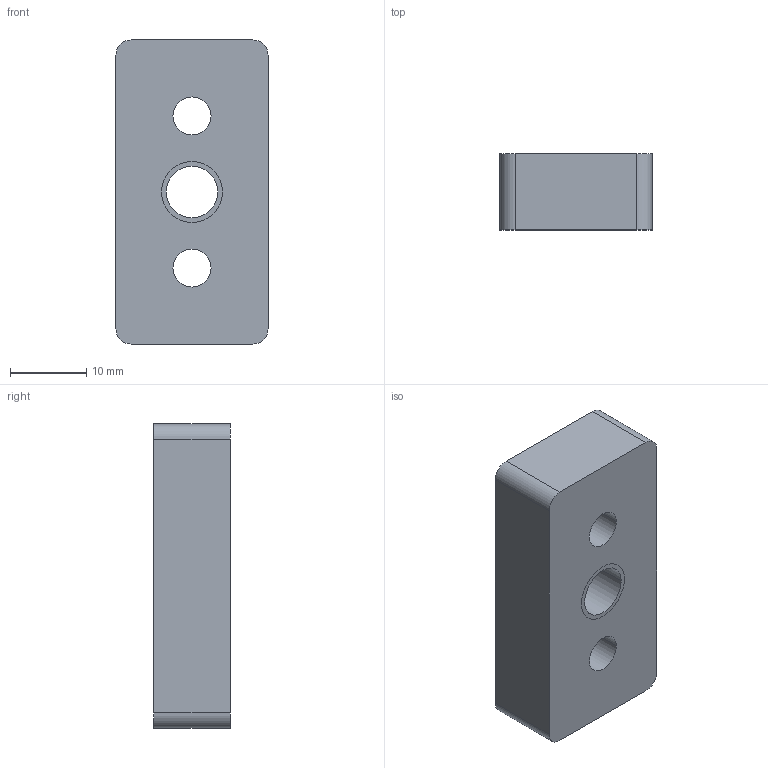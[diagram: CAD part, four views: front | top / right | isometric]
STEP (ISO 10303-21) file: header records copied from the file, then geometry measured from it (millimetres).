
FILE_DESCRIPTION((''),'2;1');
FILE_NAME('0000187259','2024-01-01T18:46:47',('Wyndorps'),(''),'CREO PARAMETRIC BY PTC INC, 2022484','CREO PARAMETRIC BY PTC INC, 2022484','');
FILE_SCHEMA(('CONFIG_CONTROL_DESIGN'));
Length unit declared in the file: millimetre
Products named in the file (1): 0000187259
Bounding box: 20 x 10 x 40 mm (x, y, z)
Volume: 7209.8 mm3; surface area: 3386.7 mm2
Topology: 1 solids, 2 shells, 18 faces, 48 edges, 32 vertices
Faces by surface type: cylinder 12, plane 6
Entity records: 632 total; most frequent: DIRECTION 110, CARTESIAN_POINT 99, ORIENTED_EDGE 92, EDGE_CURVE 48, AXIS2_PLACEMENT_3D 43, VERTEX_POINT 32, VECTOR 24, LINE 24
